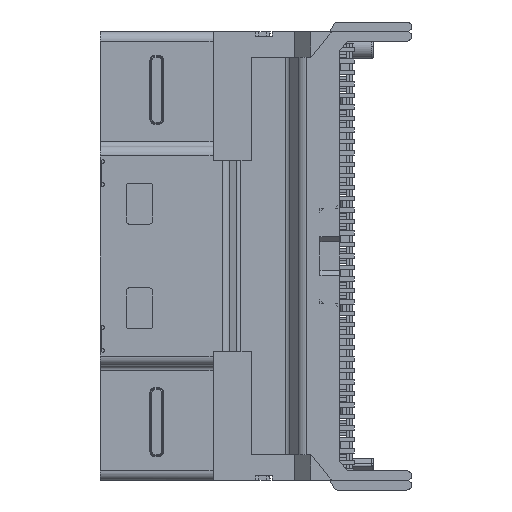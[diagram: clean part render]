
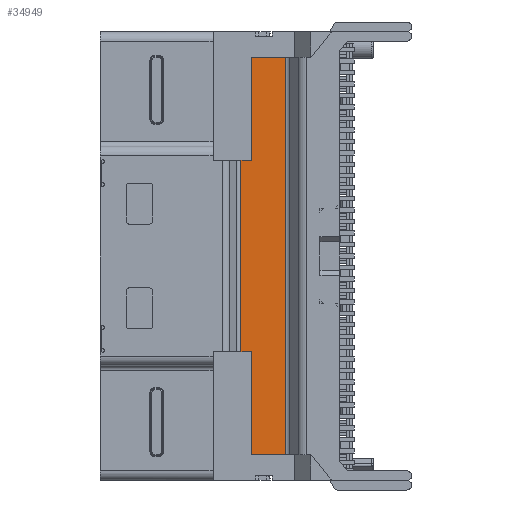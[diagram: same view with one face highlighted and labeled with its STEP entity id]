
A CAD part, left-side view. The second image highlights one B-rep face of the part: STEP entity #34949.
In plain terms, the highlighted planar face has unit normal (-1, 0, 0).
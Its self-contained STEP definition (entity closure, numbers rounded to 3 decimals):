
#5220=DIRECTION('',(0.,-1.,0.));
#5221=VECTOR('',#5220,1.801);
#5222=CARTESIAN_POINT('',(-1.83,6.4,-22.15));
#5223=LINE('',#5222,#5221);
#5272=DIRECTION('',(0.,0.,-1.));
#5273=VECTOR('',#5272,5.4);
#5274=CARTESIAN_POINT('',(-1.83,6.4,-16.75));
#5275=LINE('',#5274,#5273);
#5320=DIRECTION('',(0.,-1.,0.));
#5321=VECTOR('',#5320,0.536);
#5322=CARTESIAN_POINT('',(-1.83,6.936,-16.75));
#5323=LINE('',#5322,#5321);
#5332=DIRECTION('',(0.,1.,0.));
#5333=VECTOR('',#5332,0.536);
#5334=CARTESIAN_POINT('',(-1.83,6.4,-6.75));
#5335=LINE('',#5334,#5333);
#5376=DIRECTION('',(0.,0.,-1.));
#5377=VECTOR('',#5376,5.4);
#5378=CARTESIAN_POINT('',(-1.83,6.4,-1.35));
#5379=LINE('',#5378,#5377);
#5384=DIRECTION('',(0.,-1.,0.));
#5385=VECTOR('',#5384,1.801);
#5386=CARTESIAN_POINT('',(-1.83,6.4,-1.35));
#5387=LINE('',#5386,#5385);
#5388=DIRECTION('',(0.,0.,1.));
#5389=VECTOR('',#5388,20.8);
#5390=CARTESIAN_POINT('',(-1.83,4.599,-22.15));
#5391=LINE('',#5390,#5389);
#5408=DIRECTION('',(0.,0.,-1.));
#5409=VECTOR('',#5408,10.);
#5410=CARTESIAN_POINT('',(-1.83,6.936,-6.75));
#5411=LINE('',#5410,#5409);
#22359=CARTESIAN_POINT('',(-1.83,6.4,-22.15));
#22360=VERTEX_POINT('',#22359);
#22361=CARTESIAN_POINT('',(-1.83,4.599,-22.15));
#22362=VERTEX_POINT('',#22361);
#22377=CARTESIAN_POINT('',(-1.83,6.4,-16.75));
#22378=VERTEX_POINT('',#22377);
#22395=CARTESIAN_POINT('',(-1.83,6.936,-16.75));
#22396=VERTEX_POINT('',#22395);
#22399=CARTESIAN_POINT('',(-1.83,6.4,-6.75));
#22400=VERTEX_POINT('',#22399);
#22401=CARTESIAN_POINT('',(-1.83,6.936,-6.75));
#22402=VERTEX_POINT('',#22401);
#22417=CARTESIAN_POINT('',(-1.83,6.4,-1.35));
#22418=VERTEX_POINT('',#22417);
#22433=CARTESIAN_POINT('',(-1.83,4.599,-1.35));
#22434=VERTEX_POINT('',#22433);
#34932=CARTESIAN_POINT('',(-1.83,13.488,-28.9));
#34933=DIRECTION('',(-1.,0.,0.));
#34934=DIRECTION('',(0.,-1.,0.));
#34935=AXIS2_PLACEMENT_3D('',#34932,#34933,#34934);
#34936=PLANE('',#34935);
#34937=ORIENTED_EDGE('',*,*,#34723,.T.);
#34939=ORIENTED_EDGE('',*,*,#34938,.F.);
#34940=ORIENTED_EDGE('',*,*,#34766,.F.);
#34941=ORIENTED_EDGE('',*,*,#34804,.F.);
#34942=ORIENTED_EDGE('',*,*,#34841,.F.);
#34944=ORIENTED_EDGE('',*,*,#34943,.F.);
#34945=ORIENTED_EDGE('',*,*,#34883,.F.);
#34946=ORIENTED_EDGE('',*,*,#34919,.F.);
#34947=EDGE_LOOP('',(#34937,#34939,#34940,#34941,#34942,#34944,#34945,#34946));
#34948=FACE_OUTER_BOUND('',#34947,.F.);
#34723=EDGE_CURVE('',#22418,#22434,#5387,.T.);
#34766=EDGE_CURVE('',#22360,#22362,#5223,.T.);
#34804=EDGE_CURVE('',#22378,#22360,#5275,.T.);
#34841=EDGE_CURVE('',#22396,#22378,#5323,.T.);
#34883=EDGE_CURVE('',#22400,#22402,#5335,.T.);
#34919=EDGE_CURVE('',#22418,#22400,#5379,.T.);
#34938=EDGE_CURVE('',#22362,#22434,#5391,.T.);
#34943=EDGE_CURVE('',#22402,#22396,#5411,.T.);
#34949=ADVANCED_FACE('',(#34948),#34936,.T.);
